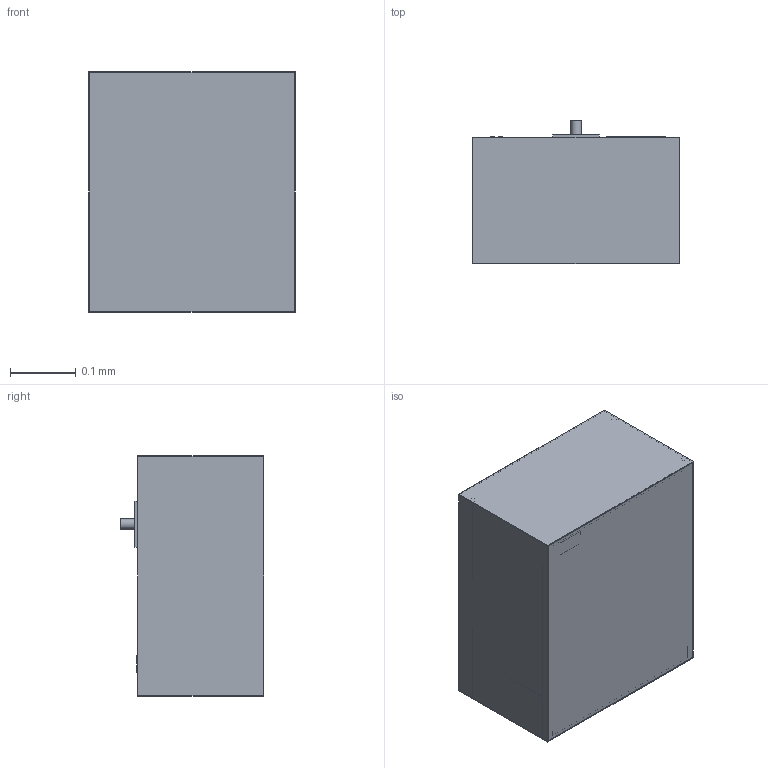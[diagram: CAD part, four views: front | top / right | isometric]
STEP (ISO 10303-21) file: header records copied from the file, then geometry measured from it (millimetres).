
FILE_DESCRIPTION(('Open CASCADE Model'),'2;1');
FILE_NAME('Open CASCADE Shape Model','2026-10-04T13:16:14',('Author'),( 'Open CASCADE'),'Open CASCADE STEP processor 7.9','Open CASCADE 7.9' ,'Unknown');
FILE_SCHEMA(('AUTOMOTIVE_DESIGN { 1 0 10303 214 1 1 1 1 }'));
Length unit declared in the file: millimetre
Products named in the file (115): MOD-plant-germination; electronics__controller_enclosure_boards_data_storage; electronics__connector_1; electronics__connector_2; fluid__nutrient_165_mL; fluid__nutrient_port; fluid__fixative_1_165_mL; fluid__fixative_1_port; fluid__fixative_2_165_mL; fluid__fixative_2_port; sensor__sensor_pack; sensor__sensor_pack_head_1; sensor__sensor_pack_head_2; pump__fluid_manifold; pump__micro_pump_1; pump__micro_pump_2; pump__valve_1; pump__valve_2; pump__valve_3; pump__valve_4; pump__manifold_inlet; pump__manifold_outlet; experiment__rack_side_rail_L; experiment__rack_side_rail_R; experiment__rack_cross_rail_1; experiment__rack_cross_rail_2; experiment__rack_cross_rail_3; sample__seed_plate_1_120_x_120_mm_square_dish; sample__seed_plate_1_agar; sample__seed_plate_1_seeds; sample__seed_plate_1_gas_permeable_cover; sample__seed_plate_3_120_x_120_mm_square_dish; sample__seed_plate_3_agar; sample__seed_plate_3_seeds; sample__seed_plate_3_gas_permeable_cover; sample__seed_plate_2_120_x_120_mm_square_dish; sample__seed_plate_2_agar; sample__seed_plate_2_seeds; sample__seed_plate_2_gas_permeable_cover; sample__seed_plate_4_120_x_120_mm_square_dish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
Assembly tree (114 placements, depth 2):
  MOD-plant-germination
    electronics__controller_enclosure_boards_data_storage
    electronics__connector_1
    electronics__connector_2
    fluid__nutrient_165_mL
    fluid__nutrient_port
    fluid__fixative_1_165_mL
    fluid__fixative_1_port
    fluid__fixative_2_165_mL
    fluid__fixative_2_port
    sensor__sensor_pack
    sensor__sensor_pack_head_1
    sensor__sensor_pack_head_2
    pump__fluid_manifold
    pump__micro_pump_1
    pump__micro_pump_2
    pump__valve_1
    pump__valve_2
    pump__valve_3
    pump__valve_4
    pump__manifold_inlet
    pump__manifold_outlet
    experiment__rack_side_rail_L
    experiment__rack_side_rail_R
    experiment__rack_cross_rail_1
    experiment__rack_cross_rail_2
    experiment__rack_cross_rail_3
    sample__seed_plate_1_120_x_120_mm_square_dish
    sample__seed_plate_1_agar
    sample__seed_plate_1_seeds
    sample__seed_plate_1_gas_permeable_cover
    sample__seed_plate_3_120_x_120_mm_square_dish
    sample__seed_plate_3_agar
    sample__seed_plate_3_seeds
    sample__seed_plate_3_gas_permeable_cover
    sample__seed_plate_2_120_x_120_mm_square_dish
    sample__seed_plate_2_agar
    sample__seed_plate_2_seeds
    sample__seed_plate_2_gas_permeable_cover
    sample__seed_plate_4_120_x_120_mm_square_dish
    sample__seed_plate_4_agar
    sample__seed_plate_4_seeds
    sample__seed_plate_4_gas_permeable_cover
    imaging__LED_panel_white_one_sided_blue_green_IR_imaging_light
    experiment__LEDs_facing_the_plates
    experiment__LED_driver
    imaging__macro_camera_1
    experiment__camera_1_lens
    imaging__macro_camera_2
    experiment__camera_2_lens
    experiment__nutrient_manifold_on_the_rack
    housing__bottom_panel
    housing__top_panel
    housing__side_panel_L
    housing__side_panel_R
    housing__back_panel_bay_interface
    housing__front_panel
    housing__corner_post_1
    housing__corner_post_2
    housing__corner_post_3
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Bounding box: 0.31 x 0.22 x 0.37 mm (x, y, z)
Volume: 0 mm3; surface area: 2.2 mm2
Topology: 166 solids, 166 shells, 751 faces, 1245 edges, 830 vertices
Faces by surface type: plane 644, cylinder 107
Full cylindrical faces by diameter (mm): 0.003 x28, 0.004 x24, 0.005 x24, 0.006 x2, 0.008 x2, 0.009 x4, 0.012 x2, 0.016 x1, 0.018 x2, 0.02 x2, 0.026 x2, 0.032 x2
Entity records: 36709 total; most frequent: CARTESIAN_POINT 5863, DIRECTION 5609, LINE 3307, VECTOR 3307, ORIENTED_EDGE 2490, PCURVE 2490, DEFINITIONAL_REPRESENTATION 2490, EDGE_CURVE 1245
